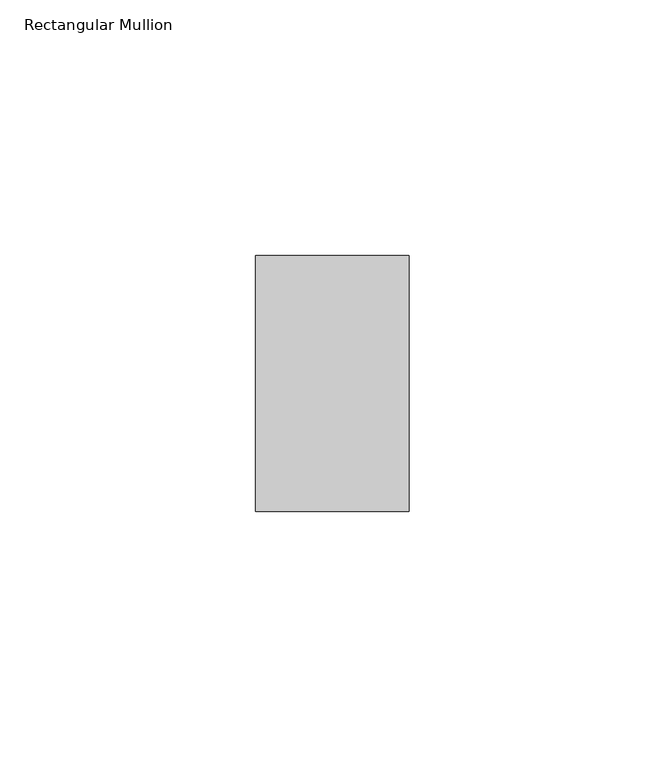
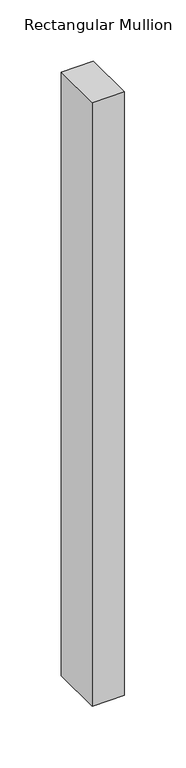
"""IFC4 building model written with IfcOpenShell, lengths in millimetres: member geometry, Rectangular Mullion : ARQ_TV_MULL_50x30mm."""

from ifc_helpers import new_model, si_unit, frame, origin, place, context, project, spatial, polyline, outline, extrude, source, transform, mapped, element, save


def rectangular_mullion_f4ea7fa0(model_context):
    return source(origin(), model_context, "Body", "SweptSolid", [
        extrude(outline(polyline([(0.0, 25.0), (0.0, -25.0), (-30.0, -25.0), (-30.0, 25.0), (0.0, 25.0)])), frame((0.0, 0.0, -600.0), z_axis=(0.0, 0.0, 1.0), x_axis=(1.0, 0.0, 0.0)), (0.0, 0.0, 1.0), 600.0),
    ])


if __name__ == "__main__":
    model = new_model("IFC4")
    model_context = context("Model", 3, world=origin())
    ifc_project = project(units=[si_unit("LENGTHUNIT", "METRE", prefix="MILLI")], contexts=[model_context])
    site = spatial("IfcSite", under=ifc_project)
    building = spatial("IfcBuilding", under=site)
    placement = place(None, origin())
    rectangular_mullion_shape = rectangular_mullion_f4ea7fa0(model_context)
    element("IfcMember", 1, ObjectType="Rectangular Mullion : ARQ_TV_MULL_50x30mm", at=placement, inside=building, context=model_context, shape_type="MappedRepresentation", body=[
        mapped(rectangular_mullion_shape, transform((0.0, 0.0, 0.0), x_axis=(1.0, 0.0, 0.0), y_axis=(0.0, 1.0, 0.0), z_axis=(0.0, 0.0, 1.0))),
    ])
    save(model, "model.ifc")
